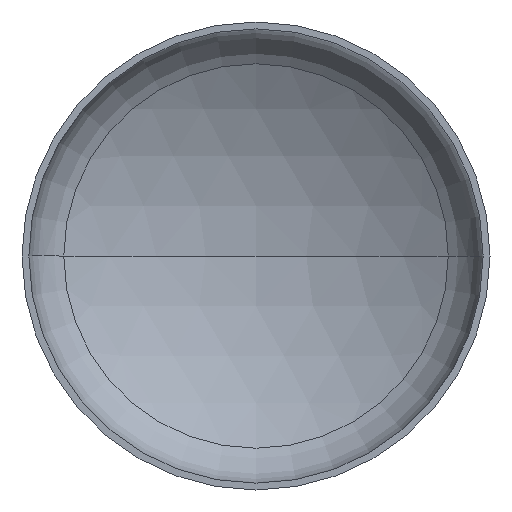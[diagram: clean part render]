
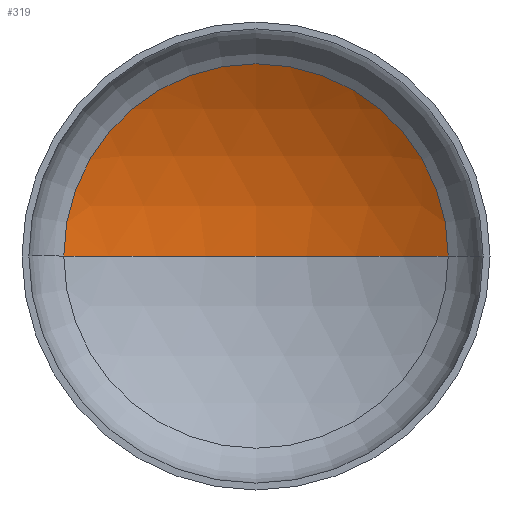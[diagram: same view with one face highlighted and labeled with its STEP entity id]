
A CAD part, front view. The second image highlights one B-rep face of the part: STEP entity #319.
In plain terms, the highlighted spherical face has radius 2400 mm.
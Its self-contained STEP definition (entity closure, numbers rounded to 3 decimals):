
#1 = DIRECTION ( 'NONE',  ( 0., -1., 0. ) ) ;
#2 = AXIS2_PLACEMENT_3D ( 'NONE', #242, #76, #110 ) ;
#11 = AXIS2_PLACEMENT_3D ( 'NONE', #392, #170, #226 ) ;
#13 = AXIS2_PLACEMENT_3D ( 'NONE', #86, #365, #167 ) ;
#14 = CARTESIAN_POINT ( 'NONE',  ( -1232.165, 534.748, 0. ) ) ;
#21 = EDGE_LOOP ( 'NONE', ( #158, #135, #101 ) ) ;
#39 = AXIS2_PLACEMENT_3D ( 'NONE', #341, #1, #401 ) ;
#76 = DIRECTION ( 'NONE',  ( 0., 0., 1. ) ) ;
#85 = EDGE_CURVE ( 'NONE', #234, #127, #325, .T. ) ;
#86 = CARTESIAN_POINT ( 'NONE',  ( 0., -1524.807, 0. ) ) ;
#101 = ORIENTED_EDGE ( 'NONE', *, *, #85, .T. ) ;
#110 = DIRECTION ( 'NONE',  ( 1., 0., 0. ) ) ;
#120 = VERTEX_POINT ( 'NONE', #213 ) ;
#127 = VERTEX_POINT ( 'NONE', #14 ) ;
#135 = ORIENTED_EDGE ( 'NONE', *, *, #332, .T. ) ;
#158 = ORIENTED_EDGE ( 'NONE', *, *, #347, .F. ) ;
#167 = DIRECTION ( 'NONE',  ( -1., 0., 0. ) ) ;
#170 = DIRECTION ( 'NONE',  ( 0., 0., -1. ) ) ;
#213 = CARTESIAN_POINT ( 'NONE',  ( 0., 875.193, 0. ) ) ;
#226 = DIRECTION ( 'NONE',  ( -1., 0., 0. ) ) ;
#231 = CIRCLE ( 'NONE', #2, 2400. ) ;
#234 = VERTEX_POINT ( 'NONE', #270 ) ;
#235 = SPHERICAL_SURFACE ( 'NONE', #11, 2400. ) ;
#242 = CARTESIAN_POINT ( 'NONE',  ( 0., -1524.807, 0. ) ) ;
#270 = CARTESIAN_POINT ( 'NONE',  ( 1232.165, 534.748, 0. ) ) ;
#290 = CIRCLE ( 'NONE', #13, 2400. ) ;
#319 = ADVANCED_FACE ( 'NONE', ( #357 ), #235, .F. ) ;
#325 = CIRCLE ( 'NONE', #39, 1232.165 ) ;
#332 = EDGE_CURVE ( 'NONE', #120, #234, #290, .T. ) ;
#341 = CARTESIAN_POINT ( 'NONE',  ( 0., 534.748, 0. ) ) ;
#347 = EDGE_CURVE ( 'NONE', #120, #127, #231, .T. ) ;
#357 = FACE_OUTER_BOUND ( 'NONE', #21, .T. ) ;
#365 = DIRECTION ( 'NONE',  ( 0., 0., -1. ) ) ;
#392 = CARTESIAN_POINT ( 'NONE',  ( 0., -1524.807, 0. ) ) ;
#401 = DIRECTION ( 'NONE',  ( 1., 0., 0. ) ) ;
